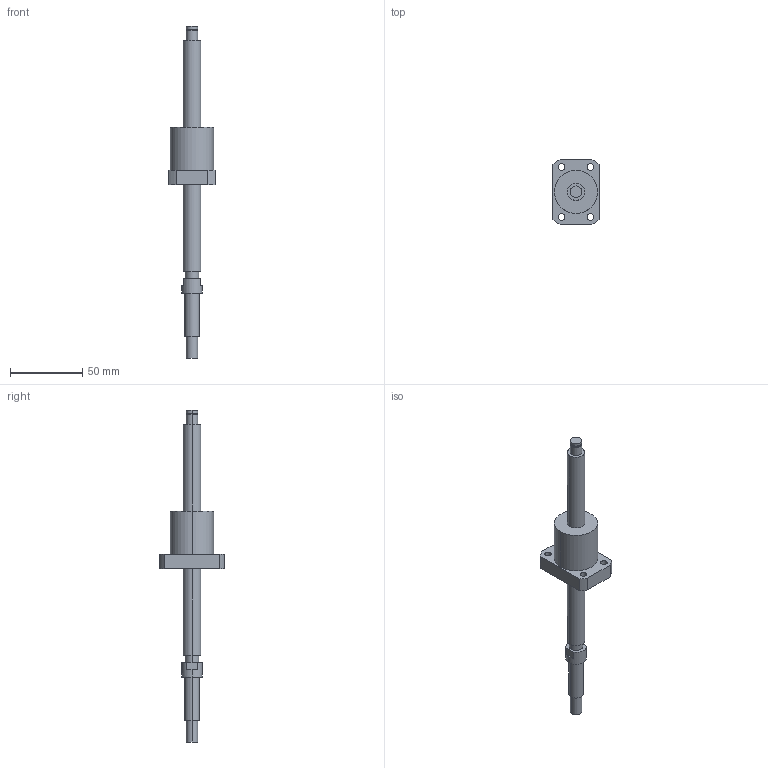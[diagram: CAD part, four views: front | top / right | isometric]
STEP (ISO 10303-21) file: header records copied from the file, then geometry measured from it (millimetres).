
FILE_DESCRIPTION((''),'2;1');
FILE_NAME('R12-5B1-FSW-160-230','2008-03-28T',('mahdi'),(''),'PRO/ENGINEER BY PARAMETRIC TECHNOLOGY CORPORATION, 2005070','PRO/ENGINEER BY PARAMETRIC TECHNOLOGY CORPORATION, 2005070','');
FILE_SCHEMA(('CONFIG_CONTROL_DESIGN'));
Length unit declared in the file: millimetre
Products named in the file (1): R12-5B1-FSW-160-230
Bounding box: 32 x 45 x 230 mm (x, y, z)
Volume: 53139 mm3; surface area: 14563.1 mm2
Topology: 1 solids, 1 shells, 64 faces, 144 edges, 96 vertices
Faces by surface type: cylinder 40, plane 24
Entity records: 1886 total; most frequent: DIRECTION 356, CARTESIAN_POINT 304, ORIENTED_EDGE 288, AXIS2_PLACEMENT_3D 148, EDGE_CURVE 144, VERTEX_POINT 96, EDGE_LOOP 86, CIRCLE 84
